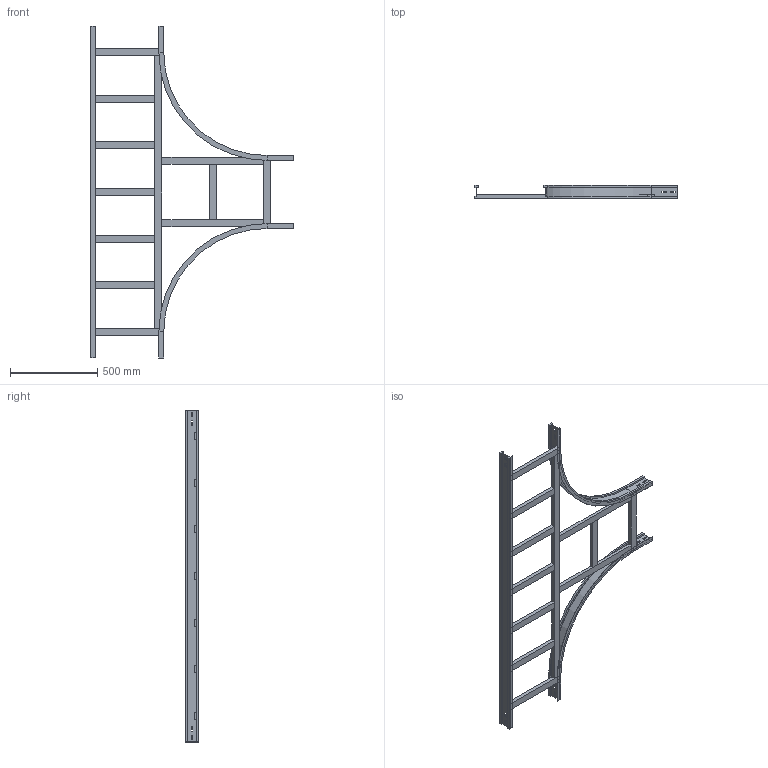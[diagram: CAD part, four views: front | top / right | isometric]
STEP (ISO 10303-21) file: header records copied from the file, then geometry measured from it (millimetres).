
FILE_DESCRIPTION (( 'STEP AP214' ), '1' );
FILE_NAME ('15S6C400.step', '2025-02-21T16:15:22', ( '' ), ( '' ), 'SwSTEP 2.0', 'SolidWorks 2023', '' );
FILE_SCHEMA (( 'AUTOMOTIVE_DESIGN' ));
Length unit declared in the file: millimetre
Products named in the file (8): TRAVERSINO_VERT_R600; 15S6C400; LONGH.INTERNO 90°_H75_R600; TRAVERSINO_400; LONGH.RETT_H75_R600+400; TRAVERSINO_LONG._R600+400; TRAVERSINO_COPPIA_400; TRAVERSINO_INTERMEDIO_R600+400
Assembly tree (15 placements, depth 2):
  15S6C400
    LONGH.INTERNO 90°_H75_R600  x2
    LONGH.RETT_H75_R600+400
    TRAVERSINO_400  x3
    TRAVERSINO_LONG._R600+400
    TRAVERSINO_INTERMEDIO_R600+400  x5
    TRAVERSINO_VERT_R600  x2
    TRAVERSINO_COPPIA_400
Bounding box: 1159 x 75 x 1900 mm (x, y, z)
Volume: 7027151.8 mm3; surface area: 1830035.9 mm2
Topology: 15 solids, 15 shells, 210 faces, 492 edges, 312 vertices
Faces by surface type: plane 198, cylinder 12
Entity records: 3589 total; most frequent: CARTESIAN_POINT 584, ORIENTED_EDGE 552, DIRECTION 552, EDGE_CURVE 276, VECTOR 264, LINE 264, VERTEX_POINT 176, AXIS2_PLACEMENT_3D 144
